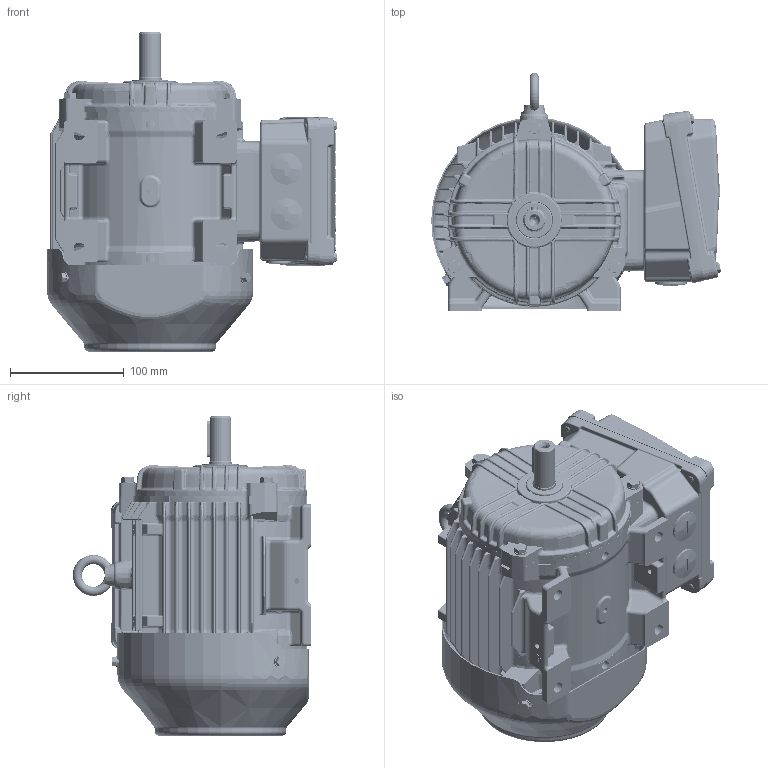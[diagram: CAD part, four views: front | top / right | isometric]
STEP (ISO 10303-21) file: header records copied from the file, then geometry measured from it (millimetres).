
FILE_DESCRIPTION (( 'STEP AP203' ), '1' );
FILE_NAME ('0208000371_RevB.STEP', '2023-06-06T03:23:57', ( '' ), ( '' ), 'SwSTEP 2.0', 'SolidWorks 2021', '' );
FILE_SCHEMA (( 'CONFIG_CONTROL_DESIGN' ));
Length unit declared in the file: inch
Products named in the file (1): 0208000371_RevB
Bounding box: 254.88 x 209.8 x 281 mm (x, y, z)
Volume: 1452111.2 mm3; surface area: 669068.6 mm2
Topology: 32 solids, 32 shells, 6982 faces, 17194 edges, 10179 vertices
Faces by surface type: bspline 1821, cylinder 1806, plane 1586, cone 760, torus 664, sphere 345
Entity records: 267510 total; most frequent: CARTESIAN_POINT 118657, ORIENTED_EDGE 33806, DIRECTION 28387, EDGE_CURVE 16903, AXIS2_PLACEMENT_3D 11872, VERTEX_POINT 10117, EDGE_LOOP 7422, ADVANCED_FACE 6982
